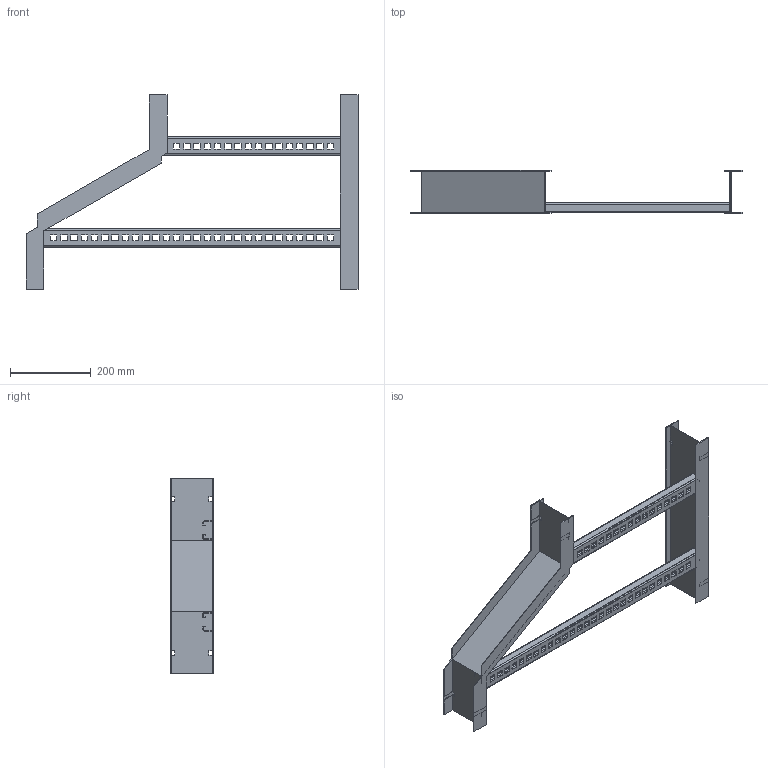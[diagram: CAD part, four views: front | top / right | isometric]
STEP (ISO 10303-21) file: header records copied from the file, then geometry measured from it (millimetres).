
FILE_DESCRIPTION((''),'2;1');
FILE_NAME('AHF53018LHLR_ASM','2010-01-27T',('erouzier'),(''),'PRO/ENGINEER BY PARAMETRIC TECHNOLOGY CORPORATION, 2008510','PRO/ENGINEER BY PARAMETRIC TECHNOLOGY CORPORATION, 2008510','');
FILE_SCHEMA(('CONFIG_CONTROL_DESIGN'));
Length unit declared in the file: inch
Products named in the file (5): CDS013867-5-120; CDS013976-5-12; CDS002159L30-P; CDS002159L18-P_AF30; AHF53018LHLR_ASM
Assembly tree (4 placements, depth 2):
  AHF53018LHLR_ASM
    CDS013867-5-120
    CDS013976-5-12
    CDS002159L30-P
    CDS002159L18-P_AF30
Bounding box: 822.2 x 106.43 x 480.78 mm (x, y, z)
Volume: 574399.6 mm3; surface area: 706288.3 mm2
Topology: 4 solids, 4 shells, 513 faces, 1539 edges, 1018 vertices
Faces by surface type: plane 315, cylinder 198
Entity records: 17644 total; most frequent: CARTESIAN_POINT 3079, ORIENTED_EDGE 3078, DIRECTION 2979, EDGE_CURVE 1539, VECTOR 1143, LINE 1143, VERTEX_POINT 1018, AXIS2_PLACEMENT_3D 918
